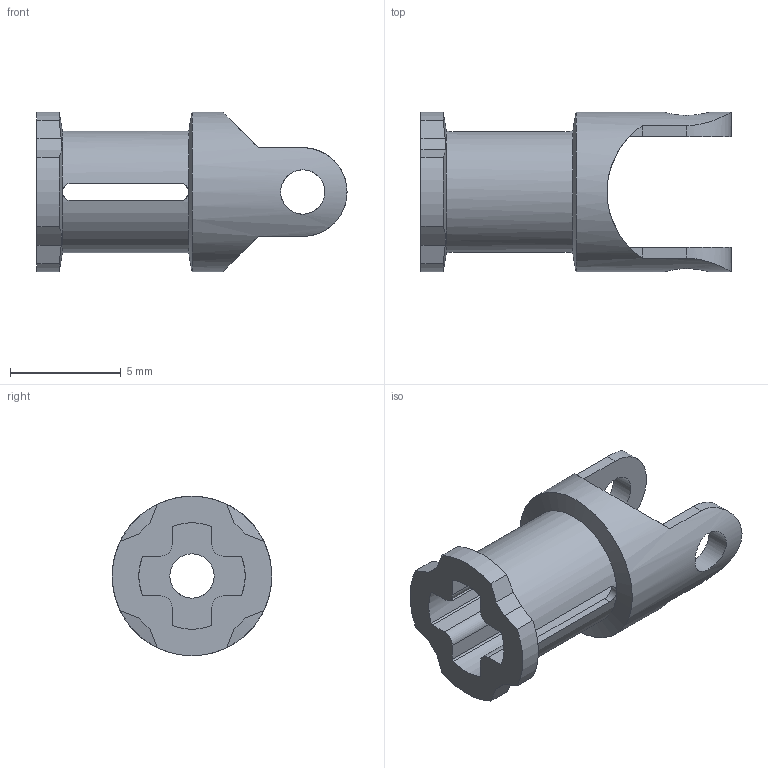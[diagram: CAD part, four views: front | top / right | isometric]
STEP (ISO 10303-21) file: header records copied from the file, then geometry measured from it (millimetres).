
FILE_DESCRIPTION(/* description */ ('Unknown'),/* implementation_level */ '2;1');
FILE_NAME(/* name */ 'ClGray_4525904_a)_AVV',/* time_stamp */ '2025-07-21T23:55:35+02:00',/* author */ ('Unknown'),/* organization */ ('Unknown'),/* preprocessor_version */ 'ST-DEVELOPER v19.4',/* originating_system */ 'Solid Edge',/* authorisation */ 'Unknown');
FILE_SCHEMA (('AUTOMOTIVE_DESIGN {1 0 10303 214 3 1 1}'));
Length unit declared in the file: millimetre
Products named in the file (1): ClGray_4525904_a)_AVV
Bounding box: 14 x 7.2 x 7.2 mm (x, y, z)
Volume: 165.6 mm3; surface area: 482.1 mm2
Topology: 1 solids, 1 shells, 71 faces, 202 edges, 132 vertices
Faces by surface type: plane 36, cylinder 33, cone 2
Full cylindrical faces by diameter (mm): 2 x3, 7.2 x1
Entity records: 2347 total; most frequent: CARTESIAN_POINT 512, ORIENTED_EDGE 382, DIRECTION 362, EDGE_CURVE 191, AXIS2_PLACEMENT_3D 128, VERTEX_POINT 127, LINE 106, VECTOR 106
